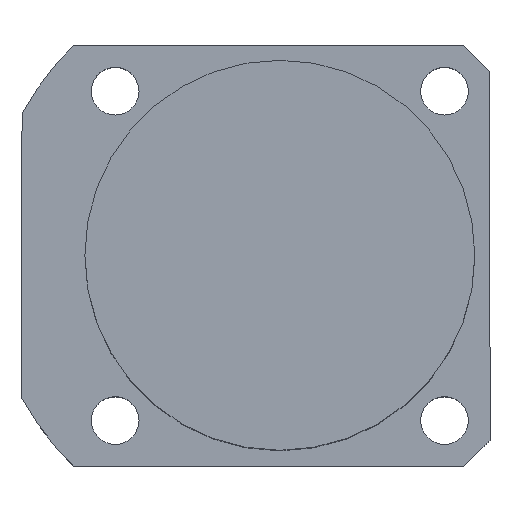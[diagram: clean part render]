
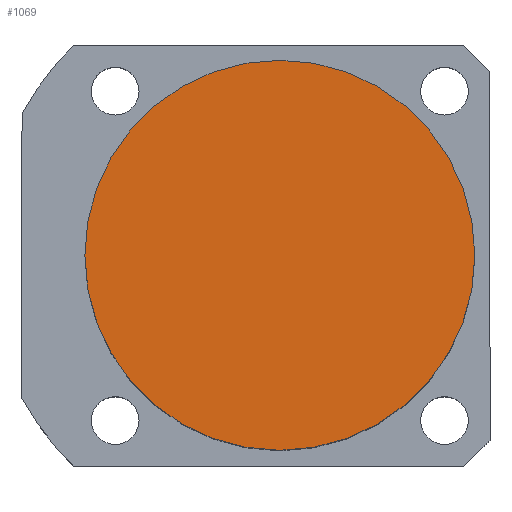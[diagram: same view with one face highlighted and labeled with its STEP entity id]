
A CAD part, top view. The second image highlights one B-rep face of the part: STEP entity #1069.
In plain terms, the highlighted planar face has unit normal (0, 0, 1).
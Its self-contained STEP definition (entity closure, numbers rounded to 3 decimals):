
#24 = AXIS2_PLACEMENT_3D ( 'NONE', #1650, #1960, #1280 ) ;
#31 = CARTESIAN_POINT ( 'NONE',  ( 0., 0., 94.5 ) ) ;
#146 = FACE_OUTER_BOUND ( 'NONE', #285, .T. ) ;
#177 = CIRCLE ( 'NONE', #24, 45. ) ;
#285 = EDGE_LOOP ( 'NONE', ( #507, #1749 ) ) ;
#396 = EDGE_CURVE ( 'NONE', #648, #514, #1065, .T. ) ;
#507 = ORIENTED_EDGE ( 'NONE', *, *, #396, .T. ) ;
#514 = VERTEX_POINT ( 'NONE', #884 ) ;
#609 = CARTESIAN_POINT ( 'NONE',  ( 0., 0., 94.5 ) ) ;
#643 = AXIS2_PLACEMENT_3D ( 'NONE', #609, #2001, #1128 ) ;
#648 = VERTEX_POINT ( 'NONE', #971 ) ;
#884 = CARTESIAN_POINT ( 'NONE',  ( 45., 0., 94.5 ) ) ;
#971 = CARTESIAN_POINT ( 'NONE',  ( -45., 0., 94.5 ) ) ;
#1065 = CIRCLE ( 'NONE', #2122, 45. ) ;
#1069 = ADVANCED_FACE ( 'NONE', ( #146 ), #1986, .T. ) ;
#1128 = DIRECTION ( 'NONE',  ( 1., 0., 0. ) ) ;
#1280 = DIRECTION ( 'NONE',  ( 1., 0., 0. ) ) ;
#1348 = DIRECTION ( 'NONE',  ( 0., 0., 1. ) ) ;
#1469 = EDGE_CURVE ( 'NONE', #514, #648, #177, .T. ) ;
#1650 = CARTESIAN_POINT ( 'NONE',  ( 0., 0., 94.5 ) ) ;
#1749 = ORIENTED_EDGE ( 'NONE', *, *, #1469, .T. ) ;
#1960 = DIRECTION ( 'NONE',  ( 0., 0., 1. ) ) ;
#1986 = PLANE ( 'NONE',  #643 ) ;
#2001 = DIRECTION ( 'NONE',  ( 0., 0., 1. ) ) ;
#2045 = DIRECTION ( 'NONE',  ( 1., 0., 0. ) ) ;
#2122 = AXIS2_PLACEMENT_3D ( 'NONE', #31, #1348, #2045 ) ;
